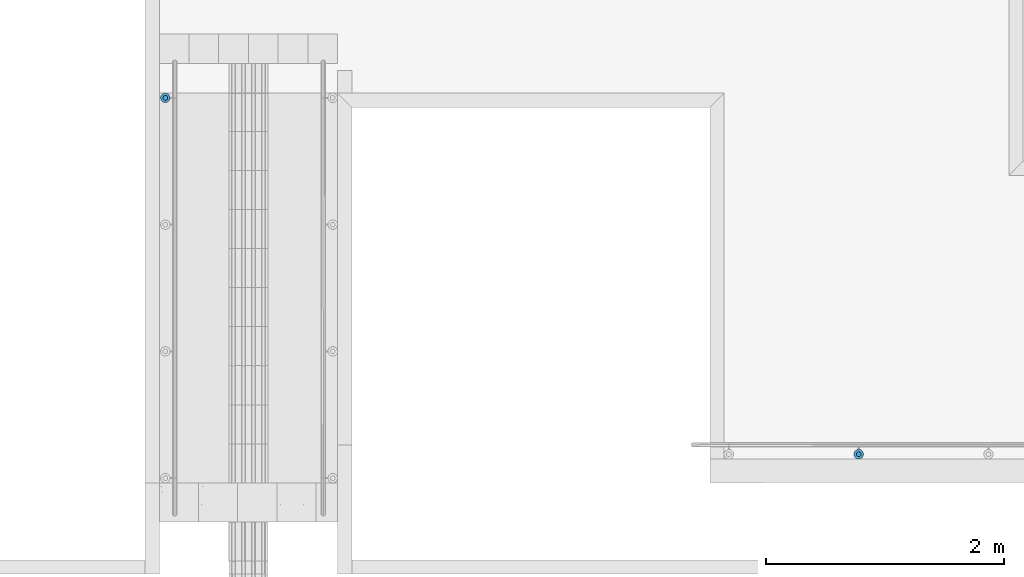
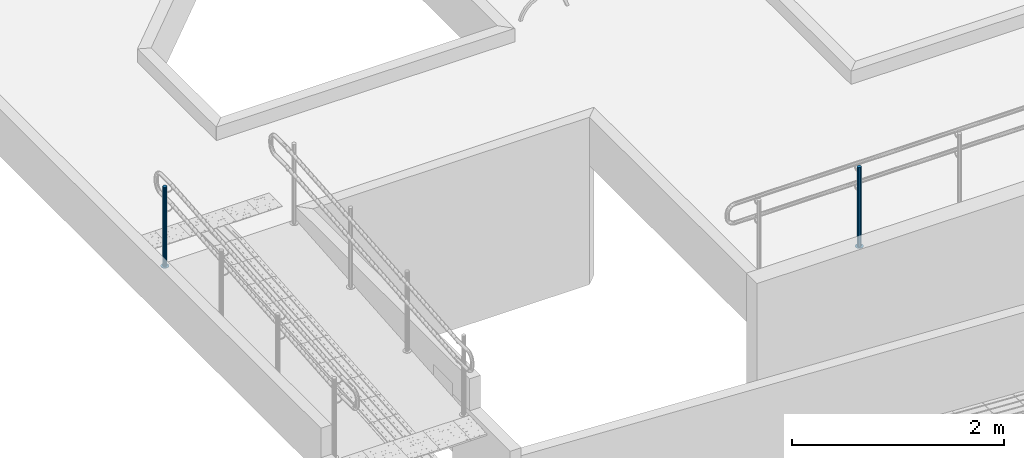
# One storey, part 104 of 237: 4 building element parts, 2 elements without a shape of their own.
"""IFC2X3 building model written with IfcOpenShell, lengths in millimetres."""

from ifc_helpers import new_model, entity, si_unit, converted_unit, derived_unit, money_unit, direction, frame, origin_with_axes, place, context, subcontext, project, spatial, faceted_brep, material, type_object, element, aggregate, save


model = new_model("IFC2X3")

# Units and contexts
model_context = context("Model", 3, precision=0.01, world=origin_with_axes(), true_north=direction((0.0, 1.0)))
body_context = subcontext(model_context, "Body", "Model", "MODEL_VIEW")
ifc_project = project(units=[si_unit("LENGTHUNIT", "METRE", prefix="MILLI"), si_unit("AREAUNIT", "SQUARE_METRE"), si_unit("VOLUMEUNIT", "CUBIC_METRE"), converted_unit("PLANEANGLEUNIT", "DEGREE", entity("IfcPlaneAngleMeasure", 0.0174532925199), si_unit("PLANEANGLEUNIT", "RADIAN"), dimensions=[0, 0, 0, 0, 0, 0, 0]), money_unit("USD"), converted_unit("TIMEUNIT", "Year", entity("IfcTimeMeasure", 31556926.0), si_unit("TIMEUNIT", "SECOND"), dimensions=[0, 0, 1, 0, 0, 0, 0]), si_unit("MASSUNIT", "GRAM", prefix="KILO"), si_unit("THERMODYNAMICTEMPERATUREUNIT", "DEGREE_CELSIUS"), si_unit("LUMINOUSINTENSITYUNIT", "LUMEN"), si_unit("ENERGYUNIT", "JOULE", prefix="MEGA"), derived_unit("THERMALCONDUCTANCEUNIT", [(si_unit("POWERUNIT", "WATT"), 1), (si_unit("LENGTHUNIT", "METRE"), -1), (si_unit("THERMODYNAMICTEMPERATUREUNIT", "KELVIN"), -1)]), derived_unit("SPECIFICHEATCAPACITYUNIT", [(si_unit("ENERGYUNIT", "JOULE"), 1), (si_unit("MASSUNIT", "GRAM", prefix="KILO"), -1), (si_unit("THERMODYNAMICTEMPERATUREUNIT", "KELVIN"), -1)]), derived_unit("MASSDENSITYUNIT", [(si_unit("MASSUNIT", "GRAM", prefix="KILO"), 1), (si_unit("VOLUMEUNIT", "CUBIC_METRE"), -1)])], contexts=[model_context])

# Site, building, storey
site_placement = place(None, origin_with_axes())
site = spatial("IfcSite", under=ifc_project, at=site_placement, Name="Local", CompositionType="ELEMENT")
building_placement = place(site_placement, origin_with_axes())
building = spatial("IfcBuilding", under=site, at=building_placement, Name="Construção", CompositionType="ELEMENT")
storey_placement = place(building_placement, origin_with_axes())
storey = spatial("IfcBuildingStorey", under=building, at=storey_placement, Name="Pavimento Térreo", CompositionType="ELEMENT", Elevation=0.0)

# Railing, building element parts
railing_type = type_object("IfcRailingType", Name="Tipo de Guarda-Corpo", PredefinedType="NOTDEFINED")
railing_1_placement = place(storey_placement, frame((83396.7842051, 16008.4211936, -5267.74663192), z_axis=(0.0, 0.0, 1.0), x_axis=(-0.999999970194, -0.00024415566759, 0.0)))
railing_1 = element("IfcRailing", 1, at=railing_1_placement, inside=storey, type_object=railing_type, Name="Guarda-Corpo - 001", PredefinedType="NOTDEFINED")
ifc_material_1 = material(Name="Aço - Inoxidável")
building_element_part_1_placement = place(railing_1_placement, origin_with_axes())
building_element_part_1 = element("IfcBuildingElementPart", 2, at=building_element_part_1_placement, material=ifc_material_1, Name="Aço - Inoxidável", context=body_context, shape_type="Brep", body=[
    faceted_brep([(-20.3104031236, -26.8581863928, 274.891999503), (-20.0057102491, -23.3852971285, 274.891999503), (-20.0057102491, -23.3852971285, 1189.8919995), (-20.3104031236, -26.8581863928, 1189.8919995), (-20.3087072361, -19.9122594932, 274.891999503), (-21.2135279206, -30.2254053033, 274.891999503), (-22.6876436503, -33.3846426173, 274.891999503), (-24.687960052, -36.2399065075, 274.891999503), (-27.1536985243, -38.7044412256, 274.891999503), (-30.0099388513, -40.7033631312, 274.891999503), (-33.169895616, -42.1759359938, 274.891999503), (-36.5375551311, -43.077416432, 274.891999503), (-40.0105927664, -43.380413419, 274.891999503), (-43.4834820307, -43.0757205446, 274.891999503), (-46.8507009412, -42.1725957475, 274.891999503), (-50.0099382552, -40.6984800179, 274.891999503), (-52.8652021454, -38.6981636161, 274.891999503), (-55.3297368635, -36.2324251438, 274.891999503), (-57.3286587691, -33.3761848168, 274.891999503), (-58.8012316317, -30.2162280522, 274.891999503), (-59.7027120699, -26.848568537, 274.891999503), (-60.0057090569, -23.3755309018, 274.891999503), (-59.7010161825, -19.9026416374, 274.891999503), (-58.7978913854, -16.5354227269, 274.891999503), (-57.3237756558, -13.376185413, 274.891999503), (-55.323459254, -10.5209215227, 274.891999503), (-52.8577207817, -8.05638680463, 274.891999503), (-50.0014804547, -6.057464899, 274.891999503), (-46.8415236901, -4.58489203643, 274.891999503), (-43.4738641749, -3.6834115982, 274.891999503), (-40.0008265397, -3.38041461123, 274.891999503), (-36.5279372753, -3.68510748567, 274.891999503), (-33.1607183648, -4.58823228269, 274.891999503), (-30.0014810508, -6.06234801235, 274.891999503), (-27.1462171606, -8.06266441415, 274.891999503), (-24.6816824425, -10.5284028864, 274.891999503), (-22.6827605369, -13.3846432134, 274.891999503), (-21.2101876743, -16.5445999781, 274.891999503), (-20.3087072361, -19.9122594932, 1189.8919995), (-43.4834820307, -43.0757205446, 1189.8919995), (-40.0105927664, -43.380413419, 1189.8919995), (-36.5375551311, -43.077416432, 1189.8919995), (-33.169895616, -42.1759359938, 1189.8919995), (-30.0099388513, -40.7033631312, 1189.8919995), (-27.1536985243, -38.7044412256, 1189.8919995), (-24.687960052, -36.2399065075, 1189.8919995), (-22.6876436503, -33.3846426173, 1189.8919995), (-21.2135279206, -30.2254053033, 1189.8919995), (-21.2101876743, -16.5445999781, 1189.8919995), (-22.6827605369, -13.3846432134, 1189.8919995), (-24.6816824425, -10.5284028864, 1189.8919995), (-27.1462171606, -8.06266441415, 1189.8919995), (-30.0014810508, -6.06234801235, 1189.8919995), (-33.1607183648, -4.58823228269, 1189.8919995), (-36.5279372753, -3.68510748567, 1189.8919995), (-40.0008265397, -3.38041461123, 1189.8919995), (-43.4738641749, -3.6834115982, 1189.8919995), (-46.8415236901, -4.58489203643, 1189.8919995), (-50.0014804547, -6.057464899, 1189.8919995), (-52.8577207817, -8.05638680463, 1189.8919995), (-55.323459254, -10.5209215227, 1189.8919995), (-57.3237756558, -13.376185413, 1189.8919995), (-58.7978913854, -16.5354227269, 1189.8919995), (-59.7010161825, -19.9026416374, 1189.8919995), (-60.0057090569, -23.3755309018, 1189.8919995), (-59.7027120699, -26.848568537, 1189.8919995), (-58.8012316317, -30.2162280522, 1189.8919995), (-57.3286587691, -33.3761848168, 1189.8919995), (-55.3297368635, -36.2324251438, 1189.8919995), (-52.8652021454, -38.6981636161, 1189.8919995), (-50.0099382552, -40.6984800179, 1189.8919995), (-46.8507009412, -42.1725957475, 1189.8919995)], [[[0, 1, 2, 3]], [[4, 1, 0, 5, 6, 7, 8, 9, 10, 11, 12, 13, 14, 15, 16, 17, 18, 19, 20, 21, 22, 23, 24, 25, 26, 27, 28, 29, 30, 31, 32, 33, 34, 35, 36, 37]], [[1, 4, 38, 2]], [[39, 40, 41, 42, 43, 44, 45, 46, 47, 3, 2, 38, 48, 49, 50, 51, 52, 53, 54, 55, 56, 57, 58, 59, 60, 61, 62, 63, 64, 65, 66, 67, 68, 69, 70, 71]], [[5, 0, 3, 47]], [[6, 5, 47, 46]], [[7, 6, 46, 45]], [[8, 7, 45, 44]], [[9, 8, 44, 43]], [[10, 9, 43, 42]], [[11, 10, 42, 41]], [[12, 11, 41, 40]], [[13, 12, 40, 39]], [[14, 13, 39, 71]], [[15, 14, 71, 70]], [[16, 15, 70, 69]], [[17, 16, 69, 68]], [[18, 17, 68, 67]], [[19, 18, 67, 66]], [[20, 19, 66, 65]], [[21, 20, 65, 64]], [[22, 21, 64, 63]], [[23, 22, 63, 62]], [[24, 23, 62, 61]], [[25, 24, 61, 60]], [[26, 25, 60, 59]], [[27, 26, 59, 58]], [[28, 27, 58, 57]], [[29, 28, 57, 56]], [[30, 29, 56, 55]], [[31, 30, 55, 54]], [[32, 31, 54, 53]], [[33, 32, 53, 52]], [[34, 33, 52, 51]], [[35, 34, 51, 50]], [[36, 35, 50, 49]], [[37, 36, 49, 48]], [[4, 37, 48, 38]]]),
])
ifc_material_2 = material(Name="Alumínio")
building_element_part_2_placement = place(railing_1_placement, origin_with_axes())
building_element_part_2 = element("IfcBuildingElementPart", 3, at=building_element_part_2_placement, material=ifc_material_2, Name="Alumínio", context=body_context, shape_type="Brep", body=[
    faceted_brep([(-39.9959434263, 16.6195847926, 269.891999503), (-46.9420186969, 16.0135908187, 269.891999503), (-46.9420186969, 16.0135908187, 274.891999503), (-39.9959434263, 16.6195847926, 274.891999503), (-33.0501648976, 16.0101990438, 269.891999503), (-26.3157270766, 14.2039494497, 269.891999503), (-19.9972524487, 11.2557179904, 269.891999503), (-14.2867246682, 7.25508518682, 269.891999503), (-9.35765523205, 2.3236082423, 269.891999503), (-5.35981142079, -3.38887241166, 269.891999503), (-2.41466569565, -9.70878594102, 269.891999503), (-0.611704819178, -16.4441049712, 269.891999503), (-0.00571084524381, -23.3901802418, 269.891999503), (-0.615096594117, -30.3359587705, 269.891999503), (-2.42134618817, -37.0703965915, 269.891999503), (-5.3695776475, -43.3888712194, 269.891999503), (-9.3702104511, -49.0993989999, 269.891999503), (-14.3016873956, -54.0284684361, 269.891999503), (-20.0141680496, -58.0263122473, 269.891999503), (-26.3340815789, -60.9714579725, 269.891999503), (-33.0694006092, -62.7744188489, 269.891999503), (-40.0154758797, -63.3804128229, 269.891999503), (-46.9612544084, -62.771027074, 269.891999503), (-53.6956922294, -60.96477748, 269.891999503), (-60.0141668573, -58.0165460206, 269.891999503), (-65.7246946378, -54.015913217, 269.891999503), (-70.653764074, -49.0844362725, 269.891999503), (-74.6516078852, -43.3719556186, 269.891999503), (-77.5967536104, -37.0520420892, 269.891999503), (-79.3997144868, -30.316723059, 269.891999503), (-80.0057084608, -23.3706477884, 269.891999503), (-79.3963227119, -16.4248692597, 269.891999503), (-77.5900731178, -9.69043143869, 269.891999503), (-74.6418416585, -3.37195681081, 269.891999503), (-70.6412088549, 2.33857096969, 269.891999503), (-65.7097319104, 7.26764040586, 269.891999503), (-59.9972512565, 11.2654842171, 269.891999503), (-53.6773377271, 14.2106299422, 269.891999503), (-53.6773377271, 14.2106299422, 274.891999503), (-59.9972512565, 11.2654842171, 274.891999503), (-65.7097319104, 7.26764040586, 274.891999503), (-70.6412088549, 2.33857096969, 274.891999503), (-74.6418416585, -3.37195681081, 274.891999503), (-77.5900731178, -9.69043143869, 274.891999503), (-79.3963227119, -16.4248692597, 274.891999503), (-80.0057084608, -23.3706477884, 274.891999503), (-79.3997144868, -30.316723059, 274.891999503), (-77.5967536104, -37.0520420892, 274.891999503), (-74.6516078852, -43.3719556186, 274.891999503), (-70.653764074, -49.0844362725, 274.891999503), (-65.7246946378, -54.015913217, 274.891999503), (-60.0141668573, -58.0165460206, 274.891999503), (-53.6956922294, -60.96477748, 274.891999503), (-46.9612544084, -62.771027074, 274.891999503), (-40.0154758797, -63.3804128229, 274.891999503), (-33.0694006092, -62.7744188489, 274.891999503), (-26.3340815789, -60.9714579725, 274.891999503), (-20.0141680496, -58.0263122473, 274.891999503), (-14.3016873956, -54.0284684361, 274.891999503), (-9.3702104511, -49.0993989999, 274.891999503), (-5.3695776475, -43.3888712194, 274.891999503), (-2.42134618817, -37.0703965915, 274.891999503), (-0.615096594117, -30.3359587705, 274.891999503), (-0.00571084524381, -23.3901802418, 274.891999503), (-0.611704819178, -16.4441049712, 274.891999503), (-2.41466569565, -9.70878594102, 274.891999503), (-5.35981142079, -3.38887241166, 274.891999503), (-9.35765523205, 2.3236082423, 274.891999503), (-14.2867246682, 7.25508518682, 274.891999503), (-19.9972524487, 11.2557179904, 274.891999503), (-26.3157270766, 14.2039494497, 274.891999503), (-33.0501648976, 16.0101990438, 274.891999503)], [[[0, 1, 2, 3]], [[0, 4, 5, 6, 7, 8, 9, 10, 11, 12, 13, 14, 15, 16, 17, 18, 19, 20, 21, 22, 23, 24, 25, 26, 27, 28, 29, 30, 31, 32, 33, 34, 35, 36, 37, 1]], [[1, 37, 38, 2]], [[3, 2, 38, 39, 40, 41, 42, 43, 44, 45, 46, 47, 48, 49, 50, 51, 52, 53, 54, 55, 56, 57, 58, 59, 60, 61, 62, 63, 64, 65, 66, 67, 68, 69, 70, 71]], [[4, 0, 3, 71]], [[5, 4, 71, 70]], [[6, 5, 70, 69]], [[7, 6, 69, 68]], [[8, 7, 68, 67]], [[9, 8, 67, 66]], [[10, 9, 66, 65]], [[11, 10, 65, 64]], [[12, 11, 64, 63]], [[13, 12, 63, 62]], [[14, 13, 62, 61]], [[15, 14, 61, 60]], [[16, 15, 60, 59]], [[17, 16, 59, 58]], [[18, 17, 58, 57]], [[19, 18, 57, 56]], [[20, 19, 56, 55]], [[21, 20, 55, 54]], [[22, 21, 54, 53]], [[23, 22, 53, 52]], [[24, 23, 52, 51]], [[25, 24, 51, 50]], [[26, 25, 50, 49]], [[27, 26, 49, 48]], [[28, 27, 48, 47]], [[29, 28, 47, 46]], [[30, 29, 46, 45]], [[31, 30, 45, 44]], [[32, 31, 44, 43]], [[33, 32, 43, 42]], [[34, 33, 42, 41]], [[35, 34, 41, 40]], [[36, 35, 40, 39]], [[37, 36, 39, 38]]]),
])
aggregate(railing_1, [building_element_part_1, building_element_part_2])

railing_2_placement = place(storey_placement, frame((88000.0, 12000.0, -7124.22292764), z_axis=(0.0, 0.0, 1.0), x_axis=(1.0, 0.0, 0.0)))
railing_2 = element("IfcRailing", 4, at=railing_2_placement, inside=storey, type_object=railing_type, Name="Guarda-Corpo - 003", PredefinedType="NOTDEFINED")
building_element_part_3_placement = place(railing_2_placement, origin_with_axes())
building_element_part_3 = element("IfcBuildingElementPart", 5, at=building_element_part_3_placement, material=ifc_material_1, Name="Aço - Inoxidável", context=body_context, shape_type="Brep", body=[
    faceted_brep([(1269.208014, 1013.14686089, 2134.61538462), (1272.68105127, 1012.84385967, 2134.61538462), (1272.68105127, 1012.84385967, 3049.61538462), (1269.208014, 1013.14686089, 3049.61538462), (1276.1539409, 1013.14854832, 2134.61538462), (1265.84035558, 1014.04834542, 2134.61538462), (1262.68040061, 1015.52092213, 2134.61538462), (1259.82416271, 1017.51984751, 2134.61538462), (1257.35842724, 1019.98438523, 2134.61538462), (1255.35811431, 1022.83965156, 2134.61538462), (1253.88400243, 1025.99889067, 2134.61538462), (1252.98088173, 1029.36611068, 2134.61538462), (1252.67619308, 1032.83900031, 2134.61538462), (1252.9791943, 1036.31203758, 2134.61538462), (1253.88067883, 1039.679696, 2134.61538462), (1255.35325554, 1042.83965097, 2134.61538462), (1257.35218092, 1045.69588886, 2134.61538462), (1259.81671864, 1048.16162434, 2134.61538462), (1262.67198497, 1050.16193726, 2134.61538462), (1265.83122407, 1051.63604915, 2134.61538462), (1269.19844408, 1052.53916985, 2134.61538462), (1272.67133372, 1052.84385849, 2134.61538462), (1276.14437098, 1052.54085728, 2134.61538462), (1279.5120294, 1051.63937274, 2134.61538462), (1282.67198438, 1050.16679604, 2134.61538462), (1285.52822227, 1048.16787065, 2134.61538462), (1287.99395774, 1045.70333294, 2134.61538462), (1289.99427067, 1042.84806661, 2134.61538462), (1291.46838255, 1039.6888275, 2134.61538462), (1292.37150325, 1036.32160749, 2134.61538462), (1292.6761919, 1032.84871786, 2134.61538462), (1292.37319069, 1029.37568059, 2134.61538462), (1291.47170615, 1026.00802217, 2134.61538462), (1289.99912944, 1022.8480672, 2134.61538462), (1288.00020406, 1019.99182931, 2134.61538462), (1285.53566634, 1017.52609383, 2134.61538462), (1282.68040002, 1015.52578091, 2134.61538462), (1279.52116091, 1014.05166902, 2134.61538462), (1276.1539409, 1013.14854832, 3049.61538462), (1252.9791943, 1036.31203758, 3049.61538462), (1252.67619308, 1032.83900031, 3049.61538462), (1252.98088173, 1029.36611068, 3049.61538462), (1253.88400243, 1025.99889067, 3049.61538462), (1255.35811431, 1022.83965156, 3049.61538462), (1257.35842724, 1019.98438523, 3049.61538462), (1259.82416271, 1017.51984751, 3049.61538462), (1262.68040061, 1015.52092213, 3049.61538462), (1265.84035558, 1014.04834542, 3049.61538462), (1279.52116091, 1014.05166902, 3049.61538462), (1282.68040002, 1015.52578091, 3049.61538462), (1285.53566634, 1017.52609383, 3049.61538462), (1288.00020406, 1019.99182931, 3049.61538462), (1289.99912944, 1022.8480672, 3049.61538462), (1291.47170615, 1026.00802217, 3049.61538462), (1292.37319069, 1029.37568059, 3049.61538462), (1292.6761919, 1032.84871786, 3049.61538462), (1292.37150325, 1036.32160749, 3049.61538462), (1291.46838255, 1039.6888275, 3049.61538462), (1289.99427067, 1042.84806661, 3049.61538462), (1287.99395774, 1045.70333294, 3049.61538462), (1285.52822227, 1048.16787065, 3049.61538462), (1282.67198438, 1050.16679604, 3049.61538462), (1279.5120294, 1051.63937274, 3049.61538462), (1276.14437098, 1052.54085728, 3049.61538462), (1272.67133372, 1052.84385849, 3049.61538462), (1269.19844408, 1052.53916985, 3049.61538462), (1265.83122407, 1051.63604915, 3049.61538462), (1262.67198497, 1050.16193726, 3049.61538462), (1259.81671864, 1048.16162434, 3049.61538462), (1257.35218092, 1045.69588886, 3049.61538462), (1255.35325554, 1042.83965097, 3049.61538462), (1253.88067883, 1039.679696, 3049.61538462)], [[[0, 1, 2, 3]], [[4, 1, 0, 5, 6, 7, 8, 9, 10, 11, 12, 13, 14, 15, 16, 17, 18, 19, 20, 21, 22, 23, 24, 25, 26, 27, 28, 29, 30, 31, 32, 33, 34, 35, 36, 37]], [[1, 4, 38, 2]], [[39, 40, 41, 42, 43, 44, 45, 46, 47, 3, 2, 38, 48, 49, 50, 51, 52, 53, 54, 55, 56, 57, 58, 59, 60, 61, 62, 63, 64, 65, 66, 67, 68, 69, 70, 71]], [[5, 0, 3, 47]], [[6, 5, 47, 46]], [[7, 6, 46, 45]], [[8, 7, 45, 44]], [[9, 8, 44, 43]], [[10, 9, 43, 42]], [[11, 10, 42, 41]], [[12, 11, 41, 40]], [[13, 12, 40, 39]], [[14, 13, 39, 71]], [[15, 14, 71, 70]], [[16, 15, 70, 69]], [[17, 16, 69, 68]], [[18, 17, 68, 67]], [[19, 18, 67, 66]], [[20, 19, 66, 65]], [[21, 20, 65, 64]], [[22, 21, 64, 63]], [[23, 22, 63, 62]], [[24, 23, 62, 61]], [[25, 24, 61, 60]], [[26, 25, 60, 59]], [[27, 26, 59, 58]], [[28, 27, 58, 57]], [[29, 28, 57, 56]], [[30, 29, 56, 55]], [[31, 30, 55, 54]], [[32, 31, 54, 53]], [[33, 32, 53, 52]], [[34, 33, 52, 51]], [[35, 34, 51, 50]], [[36, 35, 50, 49]], [[37, 36, 49, 48]], [[4, 37, 48, 38]]]),
])
building_element_part_4_placement = place(railing_2_placement, origin_with_axes())
building_element_part_4 = element("IfcBuildingElementPart", 6, at=building_element_part_4_placement, material=ifc_material_2, Name="Alumínio", context=body_context, shape_type="Brep", body=[
    faceted_brep([(1312.67619131, 1032.85357663, 2129.61538462), (1312.06681402, 1039.7993559, 2129.61538462), (1312.06681402, 1039.7993559, 2134.61538462), (1312.67619131, 1032.85357663, 2134.61538462), (1312.07018888, 1025.9075021, 2129.61538462), (1310.26721981, 1019.17218526, 2129.61538462), (1307.3220664, 1012.85227532, 2129.61538462), (1303.32421563, 1007.13979953, 2129.61538462), (1298.39514019, 1002.20832858, 2129.61538462), (1292.68460755, 998.207702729, 2129.61538462), (1286.36612933, 995.25947896, 2129.61538462), (1279.63168931, 993.453237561, 2129.61538462), (1272.68591004, 992.843860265, 2129.61538462), (1265.73983551, 993.449862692, 2129.61538462), (1259.00451867, 995.252831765, 2129.61538462), (1252.68460873, 998.197985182, 2129.61538462), (1246.97213294, 1002.19583594, 2129.61538462), (1242.04066199, 1007.12491138, 2129.61538462), (1238.04003614, 1012.83544403, 2129.61538462), (1235.09181237, 1019.15392225, 2129.61538462), (1233.28557097, 1025.88836227, 2129.61538462), (1232.67619367, 1032.83414154, 2129.61538462), (1233.2821961, 1039.78021607, 2129.61538462), (1235.08516517, 1046.51553291, 2129.61538462), (1238.03031859, 1052.83544285, 2129.61538462), (1242.02816935, 1058.54791864, 2129.61538462), (1246.95724479, 1063.47938959, 2129.61538462), (1252.66777744, 1067.48001544, 2129.61538462), (1258.98625565, 1070.42823921, 2129.61538462), (1265.72069567, 1072.23448061, 2129.61538462), (1272.66647494, 1072.8438579, 2129.61538462), (1279.61254948, 1072.23785548, 2129.61538462), (1286.34786631, 1070.4348864, 2129.61538462), (1292.66777626, 1067.48973299, 2129.61538462), (1298.38025205, 1063.49188222, 2129.61538462), (1303.31172299, 1058.56280679, 2129.61538462), (1307.31234885, 1052.85227414, 2129.61538462), (1310.26057262, 1046.53379592, 2129.61538462), (1310.26057262, 1046.53379592, 2134.61538462), (1307.31234885, 1052.85227414, 2134.61538462), (1303.31172299, 1058.56280679, 2134.61538462), (1298.38025205, 1063.49188222, 2134.61538462), (1292.66777626, 1067.48973299, 2134.61538462), (1286.34786631, 1070.4348864, 2134.61538462), (1279.61254948, 1072.23785548, 2134.61538462), (1272.66647494, 1072.8438579, 2134.61538462), (1265.72069567, 1072.23448061, 2134.61538462), (1258.98625565, 1070.42823921, 2134.61538462), (1252.66777744, 1067.48001544, 2134.61538462), (1246.95724479, 1063.47938959, 2134.61538462), (1242.02816935, 1058.54791864, 2134.61538462), (1238.03031859, 1052.83544285, 2134.61538462), (1235.08516517, 1046.51553291, 2134.61538462), (1233.2821961, 1039.78021607, 2134.61538462), (1232.67619367, 1032.83414154, 2134.61538462), (1233.28557097, 1025.88836227, 2134.61538462), (1235.09181237, 1019.15392225, 2134.61538462), (1238.04003614, 1012.83544403, 2134.61538462), (1242.04066199, 1007.12491138, 2134.61538462), (1246.97213294, 1002.19583594, 2134.61538462), (1252.68460873, 998.197985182, 2134.61538462), (1259.00451867, 995.252831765, 2134.61538462), (1265.73983551, 993.449862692, 2134.61538462), (1272.68591004, 992.843860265, 2134.61538462), (1279.63168931, 993.453237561, 2134.61538462), (1286.36612933, 995.25947896, 2134.61538462), (1292.68460755, 998.207702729, 2134.61538462), (1298.39514019, 1002.20832858, 2134.61538462), (1303.32421563, 1007.13979953, 2134.61538462), (1307.3220664, 1012.85227532, 2134.61538462), (1310.26721981, 1019.17218526, 2134.61538462), (1312.07018888, 1025.9075021, 2134.61538462)], [[[0, 1, 2, 3]], [[0, 4, 5, 6, 7, 8, 9, 10, 11, 12, 13, 14, 15, 16, 17, 18, 19, 20, 21, 22, 23, 24, 25, 26, 27, 28, 29, 30, 31, 32, 33, 34, 35, 36, 37, 1]], [[1, 37, 38, 2]], [[3, 2, 38, 39, 40, 41, 42, 43, 44, 45, 46, 47, 48, 49, 50, 51, 52, 53, 54, 55, 56, 57, 58, 59, 60, 61, 62, 63, 64, 65, 66, 67, 68, 69, 70, 71]], [[4, 0, 3, 71]], [[5, 4, 71, 70]], [[6, 5, 70, 69]], [[7, 6, 69, 68]], [[8, 7, 68, 67]], [[9, 8, 67, 66]], [[10, 9, 66, 65]], [[11, 10, 65, 64]], [[12, 11, 64, 63]], [[13, 12, 63, 62]], [[14, 13, 62, 61]], [[15, 14, 61, 60]], [[16, 15, 60, 59]], [[17, 16, 59, 58]], [[18, 17, 58, 57]], [[19, 18, 57, 56]], [[20, 19, 56, 55]], [[21, 20, 55, 54]], [[22, 21, 54, 53]], [[23, 22, 53, 52]], [[24, 23, 52, 51]], [[25, 24, 51, 50]], [[26, 25, 50, 49]], [[27, 26, 49, 48]], [[28, 27, 48, 47]], [[29, 28, 47, 46]], [[30, 29, 46, 45]], [[31, 30, 45, 44]], [[32, 31, 44, 43]], [[33, 32, 43, 42]], [[34, 33, 42, 41]], [[35, 34, 41, 40]], [[36, 35, 40, 39]], [[37, 36, 39, 38]]]),
])
aggregate(railing_2, [building_element_part_3, building_element_part_4])

save(model, "model.ifc")
